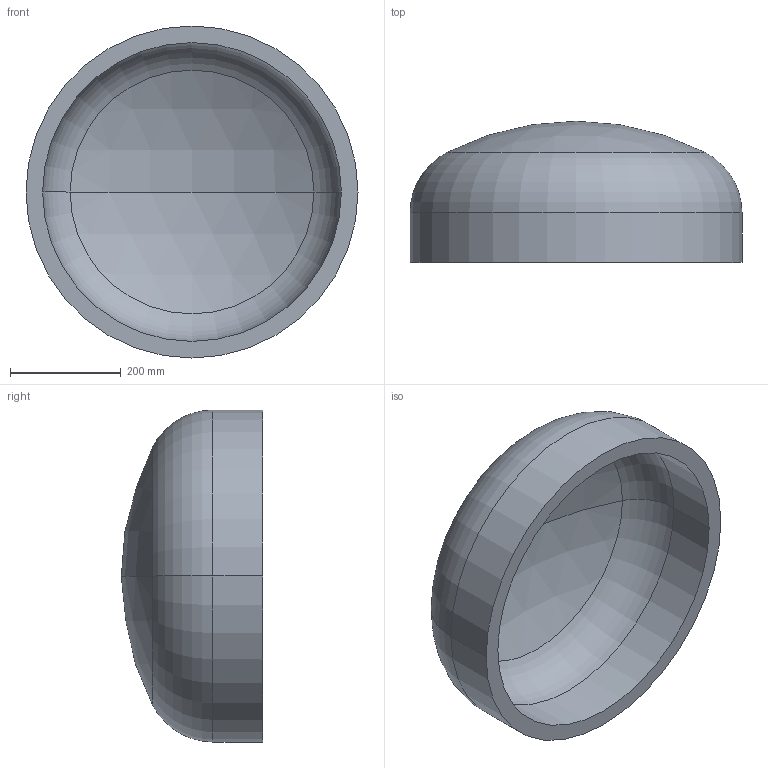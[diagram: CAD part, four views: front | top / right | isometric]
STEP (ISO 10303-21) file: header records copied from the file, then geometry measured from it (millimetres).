
FILE_DESCRIPTION (( 'STEP AP203' ), '1' );
FILE_NAME ('DIN 28013 Korbbogenform_-_Boden DIN 28013 - 600 x 90 - I - s=30.step', '2016-07-01T07:59:23', ( '' ), ( '' ), 'SwSTEP 2.0', 'SolidWorks 2013', '' );
FILE_SCHEMA (( 'CONFIG_CONTROL_DESIGN' ));
Length unit declared in the file: millimetre
Products named in the file (1): DIN 28013 Korbbogenform_-_Boden DIN 28013 - 600 x 90 - I - s=30
Bounding box: 600 x 255.24 x 600 mm (x, y, z)
Volume: 15841921 mm3; surface area: 1111734 mm2
Topology: 1 solids, 1 shells, 13 faces, 24 edges, 14 vertices
Faces by surface type: torus 4, cylinder 4, sphere 4, plane 1
Entity records: 407 total; most frequent: DIRECTION 72, CARTESIAN_POINT 52, ORIENTED_EDGE 48, AXIS2_PLACEMENT_3D 34, EDGE_CURVE 24, CIRCLE 20, EDGE_LOOP 14, VERTEX_POINT 14
